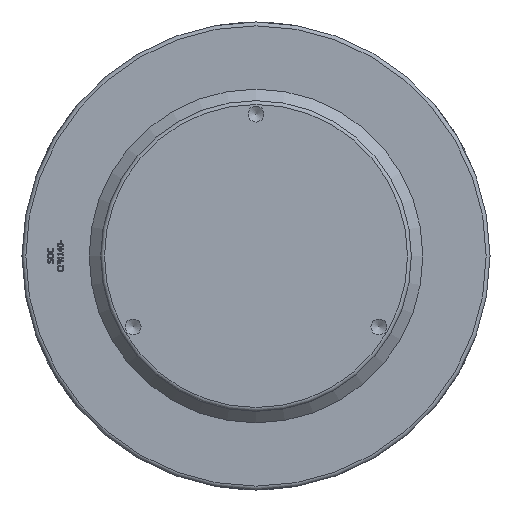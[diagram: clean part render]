
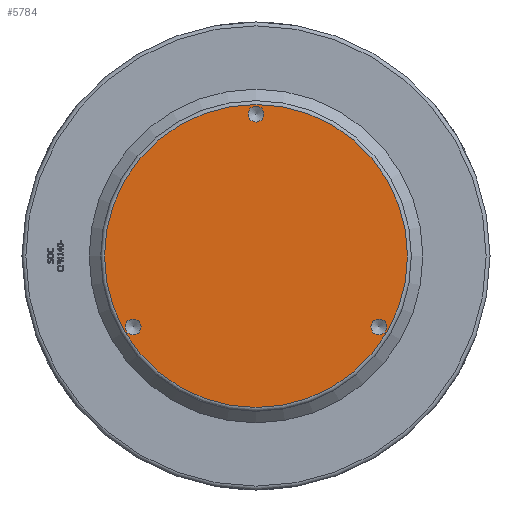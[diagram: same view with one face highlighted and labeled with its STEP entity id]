
A CAD part, front view. The second image highlights one B-rep face of the part: STEP entity #5784.
In plain terms, the highlighted planar face has unit normal (0, -1, 0) as drawn and (0, 1, 0) by its records, which use the part's own axes.
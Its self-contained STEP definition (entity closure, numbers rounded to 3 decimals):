
#1593=PLANE('',#6100);
#1687=FACE_BOUND('',#2245,.T.);
#1688=FACE_BOUND('',#2246,.T.);
#1689=FACE_BOUND('',#2247,.T.);
#1897=FACE_OUTER_BOUND('',#2244,.T.);
#2244=EDGE_LOOP('',(#4737));
#2245=EDGE_LOOP('',(#4738));
#2246=EDGE_LOOP('',(#4739));
#2247=EDGE_LOOP('',(#4740));
#2459=CIRCLE('',#6013,10.376);
#2461=CIRCLE('',#6017,10.376);
#2463=CIRCLE('',#6021,10.376);
#2465=CIRCLE('',#6098,197.5);
#2485=VERTEX_POINT('',#7160);
#2487=VERTEX_POINT('',#7166);
#2489=VERTEX_POINT('',#7172);
#2763=VERTEX_POINT('',#8981);
#3065=EDGE_CURVE('',#2485,#2485,#2459,.T.);
#3067=EDGE_CURVE('',#2487,#2487,#2461,.T.);
#3069=EDGE_CURVE('',#2489,#2489,#2463,.T.);
#3479=EDGE_CURVE('',#2763,#2763,#2465,.T.);
#4737=ORIENTED_EDGE('',*,*,#3479,.F.);
#4738=ORIENTED_EDGE('',*,*,#3065,.T.);
#4739=ORIENTED_EDGE('',*,*,#3067,.T.);
#4740=ORIENTED_EDGE('',*,*,#3069,.T.);
#5784=ADVANCED_FACE('',(#1897,#1687,#1688,#1689),#1593,.T.);
#6013=AXIS2_PLACEMENT_3D('',#7161,#6229,#6230);
#6017=AXIS2_PLACEMENT_3D('',#7167,#6237,#6238);
#6021=AXIS2_PLACEMENT_3D('',#7173,#6245,#6246);
#6098=AXIS2_PLACEMENT_3D('',#8982,#6657,#6658);
#6100=AXIS2_PLACEMENT_3D('',#8985,#6661,#6662);
#6229=DIRECTION('center_axis',(0.,-1.,0.));
#6230=DIRECTION('ref_axis',(-0.5,0.,-0.866));
#6237=DIRECTION('center_axis',(0.,-1.,0.));
#6238=DIRECTION('ref_axis',(-0.5,0.,0.866));
#6245=DIRECTION('center_axis',(0.,-1.,0.));
#6246=DIRECTION('ref_axis',(1.,0.,0.));
#6657=DIRECTION('center_axis',(0.,-1.,0.));
#6658=DIRECTION('ref_axis',(-1.,0.,0.));
#6661=DIRECTION('center_axis',(0.,1.,0.));
#6662=DIRECTION('ref_axis',(0.,0.,1.));
#7160=CARTESIAN_POINT('',(155.027,367.5,-101.486));
#7161=CARTESIAN_POINT('Origin',(160.215,367.5,-92.5));
#7166=CARTESIAN_POINT('',(-165.403,367.5,-83.514));
#7167=CARTESIAN_POINT('Origin',(-160.215,367.5,-92.5));
#7172=CARTESIAN_POINT('',(10.376,367.5,185.));
#7173=CARTESIAN_POINT('Origin',(0.,367.5,185.));
#8981=CARTESIAN_POINT('',(197.5,367.5,0.));
#8982=CARTESIAN_POINT('Origin',(0.,367.5,0.));
#8985=CARTESIAN_POINT('Origin',(202.5,367.5,0.));
